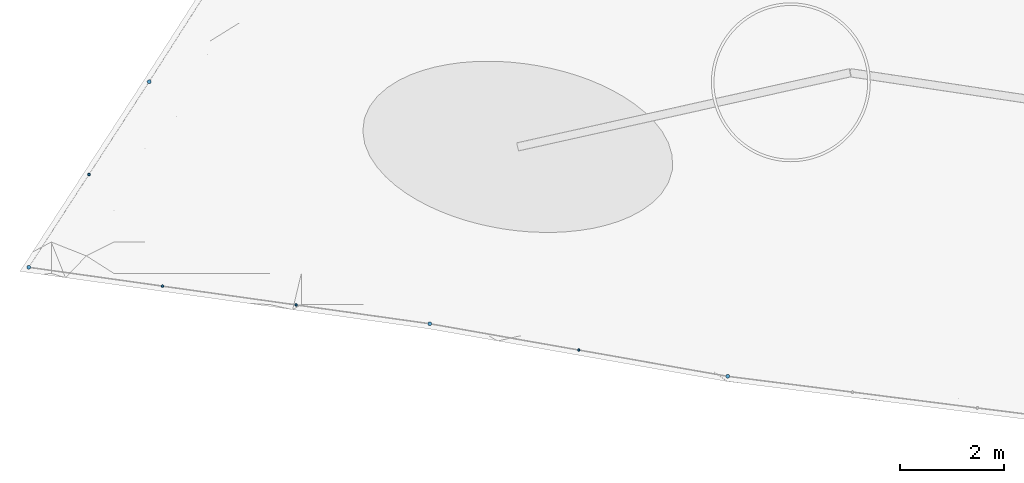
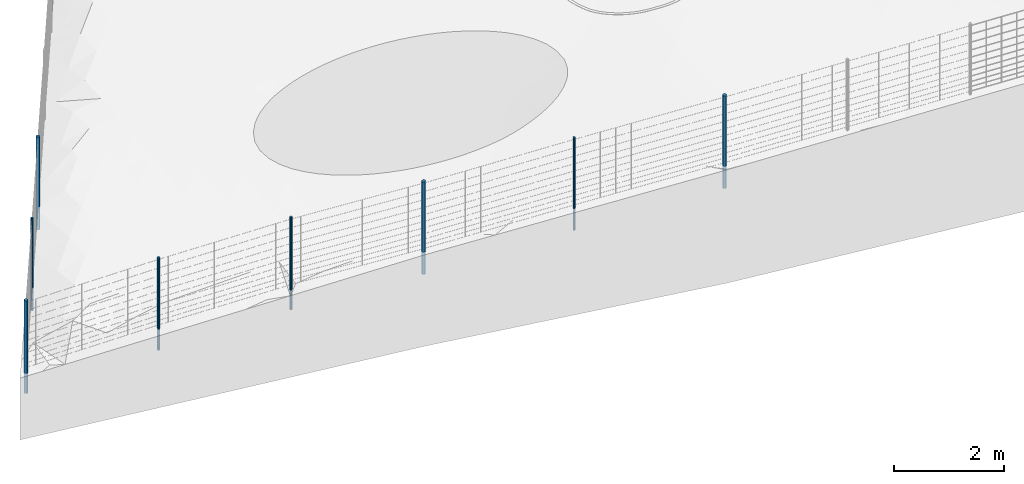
# Not in any storey, part 1 of 72: 8 members.
"""IFC4 model written with IfcOpenShell, lengths in metres."""

from ifc_helpers import new_model, si_unit, direction, frame, origin_with_axes, place, context, subcontext, project, spatial, circle, extrude, material, material_profile, profile_set, profile_usage, type_object, element, save


model = new_model("IFC4")

# Units and contexts
model_context = context("Model", 3, precision=1e-05, world=origin_with_axes(), true_north=direction((0.0, 1.0)))
body_context = subcontext(model_context, "Body", "Model", "MODEL_VIEW")
ifc_project = project(units=[si_unit("AREAUNIT", "SQUARE_METRE"), si_unit("VOLUMEUNIT", "CUBIC_METRE"), si_unit("LENGTHUNIT", "METRE")], contexts=[model_context])

# Site
site_placement = place(None, origin_with_axes())
site = spatial("IfcSite", under=ifc_project, at=site_placement, Name="Lares · Rua das Mercês · artigo 4771")

# Members
ifc_material = material(Name="Aço galvanizado / Stahl verzinkt", Category="steel")
ifc_material_profile_1 = material_profile(ifc_material, circle(Radius=0.038))
ifc_profile_set_1 = profile_set([ifc_material_profile_1], Name="D0.076")
ifc_profile_usage_1 = profile_usage(ifc_profile_set_1)
member_type_1 = type_object("IfcMemberType", Name="D0.076 / galvanized", PredefinedType="NOTDEFINED", material=ifc_profile_set_1)
member_1_placement = place(site_placement, frame((1.47688368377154, 2.86350122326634, 11.0534383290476), z_axis=(0.0, 0.0, 1.0), x_axis=(1.0, -1.03767253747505e-17, 0.0)))
element("IfcMember", 1, at=member_1_placement, inside=site, type_object=member_type_1, material=ifc_profile_usage_1, Name="Vedação · poste de canto/topo", PredefinedType="POST", context=body_context, shape_type="SweptSolid", body=[
    extrude(circle(Radius=0.038), origin_with_axes(), (0.0, 0.0, 1.0), 2.05),
])
ifc_profile_usage_2 = profile_usage(ifc_profile_set_1)
member_2_placement = place(site_placement, frame((-4.24073382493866, 3.87308071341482, 10.5386268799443), z_axis=(0.0, 0.0, 1.0), x_axis=(1.0, -1.03767253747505e-17, 0.0)))
element("IfcMember", 2, at=member_2_placement, inside=site, type_object=member_type_1, material=ifc_profile_usage_2, Name="Vedação · poste de canto/topo", PredefinedType="POST", context=body_context, shape_type="SweptSolid", body=[
    extrude(circle(Radius=0.038), origin_with_axes(), (0.0, 0.0, 1.0), 2.05),
])
ifc_profile_usage_3 = profile_usage(ifc_profile_set_1)
member_3_placement = place(site_placement, frame((-11.9369782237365, 4.95607283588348, 9.94656068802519), z_axis=(0.0, 0.0, 1.0), x_axis=(1.0, -1.03767253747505e-17, 0.0)))
element("IfcMember", 3, at=member_3_placement, inside=site, type_object=member_type_1, material=ifc_profile_usage_3, Name="Vedação · poste de canto/topo", PredefinedType="POST", context=body_context, shape_type="SweptSolid", body=[
    extrude(circle(Radius=0.038), origin_with_axes(), (0.0, 0.0, 1.0), 2.05),
])
ifc_profile_usage_4 = profile_usage(ifc_profile_set_1)
member_4_placement = place(site_placement, frame((-9.62702509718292, 8.51855659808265, 10.6004140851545), z_axis=(0.0, 0.0, 1.0), x_axis=(1.0, -1.03767253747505e-17, 0.0)))
element("IfcMember", 4, at=member_4_placement, inside=site, type_object=member_type_1, material=ifc_profile_usage_4, Name="Vedação · poste de canto/topo", PredefinedType="POST", context=body_context, shape_type="SweptSolid", body=[
    extrude(circle(Radius=0.038), origin_with_axes(), (0.0, 0.0, 1.0), 2.05),
])
ifc_material_profile_2 = material_profile(ifc_material, circle(Radius=0.024))
ifc_profile_set_2 = profile_set([ifc_material_profile_2], Name="D0.048")
ifc_profile_usage_5 = profile_usage(ifc_profile_set_2)
member_type_2 = type_object("IfcMemberType", Name="D0.048 / galvanized", PredefinedType="NOTDEFINED", material=ifc_profile_set_2)
member_5_placement = place(site_placement, frame((-1.38192507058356, 3.36829096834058, 10.8118171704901), z_axis=(0.0, 0.0, 1.0), x_axis=(1.0, -1.03767253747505e-17, 0.0)))
element("IfcMember", 5, at=member_5_placement, inside=site, type_object=member_type_2, material=ifc_profile_usage_5, Name="Vedação · poste intermédio", PredefinedType="POST", context=body_context, shape_type="SweptSolid", body=[
    extrude(circle(Radius=0.024), origin_with_axes(), (0.0, 0.0, 1.0), 2.05),
])
ifc_profile_usage_6 = profile_usage(ifc_profile_set_2)
member_6_placement = place(site_placement, frame((-6.80614862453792, 4.23407808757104, 10.4244345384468), z_axis=(0.0, 0.0, 1.0), x_axis=(1.0, -1.03767253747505e-17, 0.0)))
element("IfcMember", 6, at=member_6_placement, inside=site, type_object=member_type_2, material=ifc_profile_usage_6, Name="Vedação · poste intermédio", PredefinedType="POST", context=body_context, shape_type="SweptSolid", body=[
    extrude(circle(Radius=0.024), origin_with_axes(), (0.0, 0.0, 1.0), 2.05),
])
ifc_profile_usage_7 = profile_usage(ifc_profile_set_2)
member_7_placement = place(site_placement, frame((-9.37156342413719, 4.59507546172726, 10.2100453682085), z_axis=(0.0, 0.0, 1.0), x_axis=(1.0, -1.03767253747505e-17, 0.0)))
element("IfcMember", 7, at=member_7_placement, inside=site, type_object=member_type_2, material=ifc_profile_usage_7, Name="Vedação · poste intermédio", PredefinedType="POST", context=body_context, shape_type="SweptSolid", body=[
    extrude(circle(Radius=0.024), origin_with_axes(), (0.0, 0.0, 1.0), 2.05),
])
ifc_profile_usage_8 = profile_usage(ifc_profile_set_2)
member_8_placement = place(site_placement, frame((-10.7820016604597, 6.73731471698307, 10.2809353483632), z_axis=(0.0, 0.0, 1.0), x_axis=(1.0, -1.03767253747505e-17, 0.0)))
element("IfcMember", 8, at=member_8_placement, inside=site, type_object=member_type_2, material=ifc_profile_usage_8, Name="Vedação · poste intermédio", PredefinedType="POST", context=body_context, shape_type="SweptSolid", body=[
    extrude(circle(Radius=0.024), origin_with_axes(), (0.0, 0.0, 1.0), 2.05),
])

save(model, "model.ifc")
